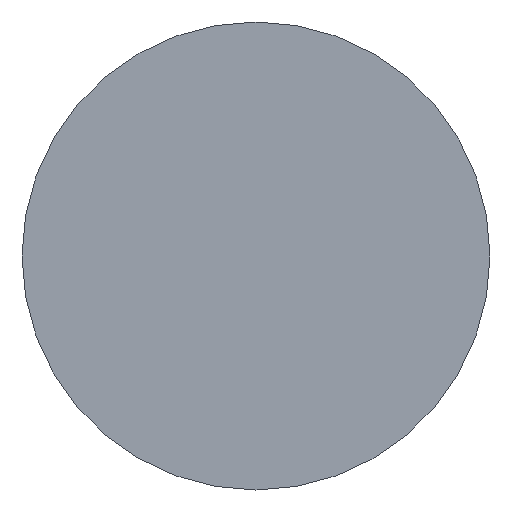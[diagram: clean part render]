
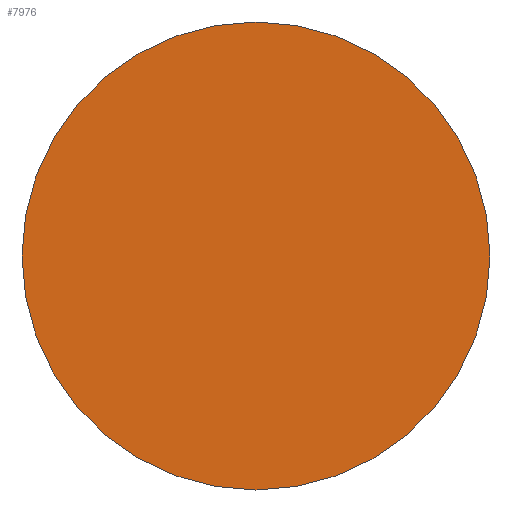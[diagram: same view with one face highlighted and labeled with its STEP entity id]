
A CAD part, front view. The second image highlights one B-rep face of the part: STEP entity #7976.
In plain terms, the highlighted planar face has unit normal (0, -1, 0) as drawn and (0, 0, -1) by its records, which use the part's own axes.
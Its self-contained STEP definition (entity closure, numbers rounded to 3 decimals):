
#1893 = CARTESIAN_POINT ( 'NONE',  ( -140., 0., 0. ) ) ;
#1894 = DIRECTION ( 'NONE',  ( 1., 0., 0. ) ) ;
#1895 = DIRECTION ( 'NONE',  ( 0., 0., 1. ) ) ;
#1896 = CARTESIAN_POINT ( 'NONE',  ( 0., 0., 0. ) ) ;
#1897 = AXIS2_PLACEMENT_3D ( 'NONE', #1896, #1895, #1894 ) ;
#1898 = CIRCLE ( 'NONE', #1897, 140. ) ;
#1899 = CARTESIAN_POINT ( 'NONE',  ( 140., 0., 0. ) ) ;
#2059 = DIRECTION ( 'NONE',  ( 1., 0., 0. ) ) ;
#2060 = DIRECTION ( 'NONE',  ( 0., 0., 1. ) ) ;
#2061 = CARTESIAN_POINT ( 'NONE',  ( 0., 0., 0. ) ) ;
#2062 = AXIS2_PLACEMENT_3D ( 'NONE', #2061, #2060, #2059 ) ;
#2063 = PLANE ( 'NONE',  #2062 ) ;
#2064 = FACE_OUTER_BOUND ( 'NONE', #7827, .T. ) ;
#2065 = DIRECTION ( 'NONE',  ( 1., 0., 0. ) ) ;
#2066 = DIRECTION ( 'NONE',  ( 0., 0., 1. ) ) ;
#2067 = CARTESIAN_POINT ( 'NONE',  ( 0., 0., 0. ) ) ;
#2068 = AXIS2_PLACEMENT_3D ( 'NONE', #2067, #2066, #2065 ) ;
#2069 = CIRCLE ( 'NONE', #2068, 140. ) ;
#7815 = VERTEX_POINT ( 'NONE', #1899 ) ;
#7817 = EDGE_CURVE ( 'NONE', #7815, #7819, #1898, .T. ) ;
#7819 = VERTEX_POINT ( 'NONE', #1893 ) ;
#7827 = EDGE_LOOP ( 'NONE', ( #7828, #7829 ) ) ;
#7828 = ORIENTED_EDGE ( 'NONE', *, *, #7974, .F. ) ;
#7829 = ORIENTED_EDGE ( 'NONE', *, *, #7817, .F. ) ;
#7974 = EDGE_CURVE ( 'NONE', #7819, #7815, #2069, .T. ) ;
#7976 = ADVANCED_FACE ( 'NONE', ( #2064 ), #2063, .F. ) ;
